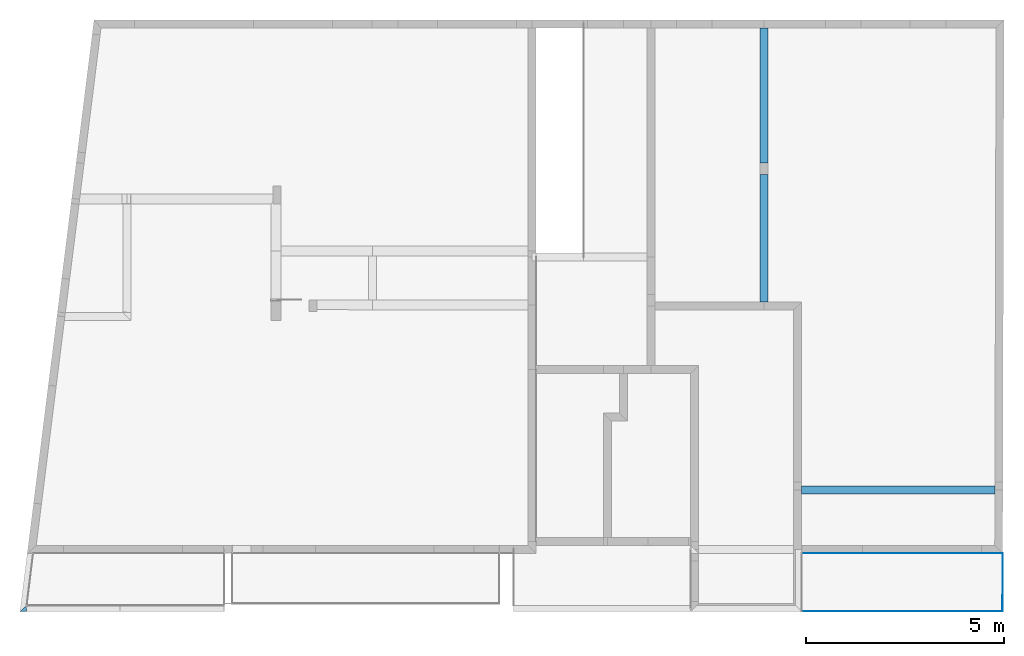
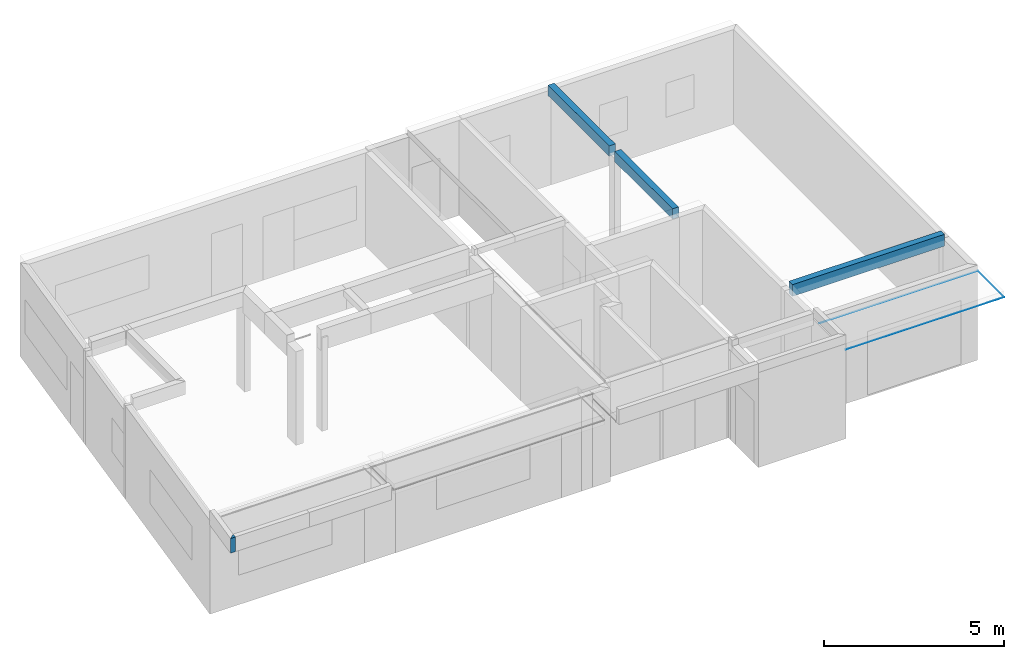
# One storey, part 2 of 17: 7 beams.
"""IFC2X3 building model written with IfcOpenShell, lengths in metres."""

import ifcopenshell
import ifcopenshell.guid

model = None  # the IFC model being written
_history = None  # IfcOwnerHistory: only IFC2X3 demands one
_inside = {}  # id of a spatial element -> (the spatial element, [elements in it])
_under = {}  # id of a project, library or spatial element -> (it, [spatial elements below it])
_declared = {}  # id of a project -> (the project, [libraries it declares])
_typed = {}  # id of a type object -> (the type object, [elements of that type])
_made_of = {}  # id of a material, layer set ... -> (it, [elements and type objects made of it])


def new_model(schema):
    """Start an empty IFC model of exactly this schema.

    Asked for "IFC4X3", IfcOpenShell would pick the latest addendum, in which some entities
    have other attributes; the version numbers below select the first issue.
    IFC2X3 requires an IfcOwnerHistory on every rooted entity: one is made here for all.
    """
    global model, _history
    if schema == "IFC4X3":
        model = ifcopenshell.file(schema_version=(4, 3, 0, 0))
    else:
        model = ifcopenshell.file(schema=schema)
    _inside.clear()
    _under.clear()
    _declared.clear()
    _typed.clear()
    _made_of.clear()
    _history = None
    if model.schema == "IFC2X3":
        org = make("IfcOrganization", Name="unknown")
        user = make(
            "IfcPersonAndOrganization",
            ThePerson=make("IfcPerson", FamilyName="unknown"),
            TheOrganization=org,
        )
        app = make(
            "IfcApplication",
            ApplicationDeveloper=org,
            Version="unknown",
            ApplicationFullName="unknown",
            ApplicationIdentifier="unknown",
        )
        _history = make(
            "IfcOwnerHistory",
            OwningUser=user,
            OwningApplication=app,
            ChangeAction="ADDED",
            CreationDate=0,
        )
    return model


def make(cls, **values):
    """One entity of the class cls with the attributes given. An attribute that is None is left unset."""
    return model.create_entity(
        cls, **{name: value for name, value in values.items() if value is not None}
    )


def rooted(cls, **values):
    """An entity with a GlobalId (a new one), such as an element, a storey or a relation."""
    return make(cls, GlobalId=ifcopenshell.guid.new(), OwnerHistory=_history, **values)


def si_unit(unit_type, name, prefix=None):
    """IfcSIUnit, for example si_unit("LENGTHUNIT", "METRE", prefix="MILLI")."""
    return make("IfcSIUnit", UnitType=unit_type, Prefix=prefix, Name=name)


def assignment(units):
    """IfcUnitAssignment: the units of a project."""
    return None if units is None else make("IfcUnitAssignment", Units=units)


def point(xyz):
    """IfcCartesianPoint."""
    return None if xyz is None else make("IfcCartesianPoint", Coordinates=xyz)


def direction(xyz):
    """IfcDirection."""
    return None if xyz is None else make("IfcDirection", DirectionRatios=xyz)


def frame(location, z_axis=None, x_axis=None):
    """IfcAxis2Placement3D, a coordinate frame: its origin and axes. An axis left out is left unset."""
    return make(
        "IfcAxis2Placement3D",
        Location=point(location),
        Axis=direction(z_axis),
        RefDirection=direction(x_axis),
    )


def origin_with_axes():
    """The frame at (0, 0, 0) with the z axis (0, 0, 1) and the x axis (1, 0, 0) written out."""
    return frame((0.0, 0.0, 0.0), z_axis=(0.0, 0.0, 1.0), x_axis=(1.0, 0.0, 0.0))


def place(relative_to, where):
    """IfcLocalPlacement: puts the frame where relative to a parent placement (None: the world)."""
    return make(
        "IfcLocalPlacement", PlacementRelTo=relative_to, RelativePlacement=where
    )


def context(
    kind, dimensions, precision=None, world=None, true_north=None, identifier=None
):
    """IfcGeometricRepresentationContext, for example the 3D "Model" context."""
    return make(
        "IfcGeometricRepresentationContext",
        ContextIdentifier=identifier,
        ContextType=kind,
        CoordinateSpaceDimension=dimensions,
        Precision=precision,
        WorldCoordinateSystem=world,
        TrueNorth=true_north,
    )


def subcontext(parent, identifier, kind, view, scale=None):
    """IfcGeometricRepresentationSubContext, for example "Body" below "Model"."""
    return make(
        "IfcGeometricRepresentationSubContext",
        ContextIdentifier=identifier,
        ContextType=kind,
        ParentContext=parent,
        TargetScale=scale,
        TargetView=view,
    )


def project(units=None, contexts=None):
    """IfcProject with its units and contexts."""
    return rooted(
        "IfcProject",
        Name="project",
        RepresentationContexts=contexts,
        UnitsInContext=assignment(units),
    )


def spatial(cls, under=None, at=None, **own):
    """A site, building, storey or space (cls), placed at a placement, below another one or the project."""
    s = rooted(cls, ObjectPlacement=at, **own)
    if under is not None:
        _under.setdefault(under.id(), (under, []))[1].append(s)
    return s


def polyline(points):
    """IfcPolyline through the points."""
    return make("IfcPolyline", Points=[point(p) for p in points])


def outline(outer, holes=None, kind="AREA"):
    """IfcArbitraryClosedProfileDef: a profile drawn as a closed curve; with holes, ...WithVoids."""
    if holes is None:
        return make("IfcArbitraryClosedProfileDef", ProfileType=kind, OuterCurve=outer)
    return make(
        "IfcArbitraryProfileDefWithVoids",
        ProfileType=kind,
        OuterCurve=outer,
        InnerCurves=holes,
    )


def extrude(swept, where, along, depth):
    """IfcExtrudedAreaSolid: the profile swept, set in the frame where, extruded along a direction by depth."""
    return make(
        "IfcExtrudedAreaSolid",
        SweptArea=swept,
        Position=where,
        ExtrudedDirection=direction(along),
        Depth=depth,
    )


def shape(context_of_items, identifier, shape_type, items):
    """IfcShapeRepresentation: the items that make up one representation, for example the "Body"."""
    return make(
        "IfcShapeRepresentation",
        ContextOfItems=context_of_items,
        RepresentationIdentifier=identifier,
        RepresentationType=shape_type,
        Items=items,
    )


def material(Name=None, Category=None):
    """IfcMaterial."""
    return make("IfcMaterial", Name=Name, Category=Category)


def made_of(thing, what):
    """Note that an element or type object is made of a material, layer set ...; save() writes the relation."""
    if what is not None:
        _made_of.setdefault(what.id(), (what, []))[1].append(thing)
    return thing


def type_object(cls, material=None, **own):
    """A type object (cls), such as IfcWallType, which elements share."""
    return made_of(rooted(cls, **own), material)


def element(
    cls,
    number,
    at=None,
    inside=None,
    cuts=None,
    type_object=None,
    material=None,
    context=None,
    identifier="Body",
    shape_type=None,
    held_by="IfcProductDefinitionShape",
    body=None,
    shapes=None,
    **own,
):
    """One element of the class cls, such as IfcWall. Its Tag is "e" and its number.

    at: its placement. inside: the storey or other place that contains it. cuts: it is an
    opening in that element (IfcRelVoidsElement). A single representation is given by context,
    identifier, shape_type and body (its items); several are given by shapes. held_by: the class
    of the entity that holds the representations. save() writes the other relations.
    """
    e = rooted(cls, Tag="e%d" % number, ObjectPlacement=at, **own)
    if body is not None:
        shapes = [shape(context, identifier, shape_type, body)]
    if shapes is not None:
        e.Representation = make(held_by, Representations=shapes)
    if inside is not None:
        _inside.setdefault(inside.id(), (inside, []))[1].append(e)
    if cuts is not None:
        rooted(
            "IfcRelVoidsElement", RelatingBuildingElement=cuts, RelatedOpeningElement=e
        )
    if type_object is not None:
        _typed.setdefault(type_object.id(), (type_object, []))[1].append(e)
    return made_of(e, material)


def aggregate(whole, parts):
    """IfcRelAggregates: a whole, such as a stair, and the parts it consists of."""
    return rooted("IfcRelAggregates", RelatingObject=whole, RelatedObjects=parts)


def save(model, path):
    """Write the relations noted so far, then the file.

    IfcRelAggregates (storeys below a building ...), IfcRelContainedInSpatialStructure (elements
    in a storey), IfcRelDefinesByType, IfcRelAssociatesMaterial and IfcRelDeclares: one each for
    every whole, place, type object, material and project.
    """
    for whole, parts in _under.values():
        aggregate(whole, parts)
    for where, things in _inside.values():
        rooted(
            "IfcRelContainedInSpatialStructure",
            RelatedElements=things,
            RelatingStructure=where,
        )
    for kind, things in _typed.values():
        rooted("IfcRelDefinesByType", RelatedObjects=things, RelatingType=kind)
    for what, things in _made_of.values():
        rooted("IfcRelAssociatesMaterial", RelatedObjects=things, RelatingMaterial=what)
    for by, libraries in _declared.values():
        rooted("IfcRelDeclares", RelatingContext=by, RelatedDefinitions=libraries)
    model.write(path)


model = new_model("IFC2X3")

# Units and contexts
model_context = context("Model", 3, precision=0.0001, world=origin_with_axes(), true_north=direction((0.0, 1.0)))
plan_context = context("Plan", 2, precision=0.0001, world=origin_with_axes(), true_north=direction((0.0, 1.0)))
body_context = subcontext(model_context, "Body", "Model", "MODEL_VIEW")
ifc_project = project(units=[si_unit("MASSUNIT", "GRAM", prefix="KILO"), si_unit("AREAUNIT", "SQUARE_METRE"), si_unit("LENGTHUNIT", "METRE"), si_unit("VOLUMEUNIT", "CUBIC_METRE")], contexts=[plan_context, model_context])

# Site, building, storey
site_placement = place(None, origin_with_axes())
site = spatial("IfcSite", under=ifc_project, at=site_placement, Name="$", CompositionType="ELEMENT")
building_placement = place(site_placement, origin_with_axes())
building = spatial("IfcBuilding", under=site, at=building_placement, Name="Classeur ENS Ensemble", CompositionType="ELEMENT")
storey_placement = place(building_placement, frame((-20.30778888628, -1.812671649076, 0.0), z_axis=(0.0, 0.0, 1.0), x_axis=(1.0, 0.0, 0.0)))
storey = spatial("IfcBuildingStorey", under=building, at=storey_placement, Name="001 RdC", CompositionType="ELEMENT", Elevation=0.0)

# Beams
ifc_material = material(Name="Default material")
beam_type = type_object("IfcBeamType", PredefinedType="BEAM")
beam_1_placement = place(storey_placement, frame((38.08329531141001, -10.06773184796, 2.900000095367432), z_axis=(0.0, 0.0, 1.0), x_axis=(1.0, 0.0, 0.0)))
element("IfcBeam", 1, at=beam_1_placement, inside=storey, type_object=beam_type, material=ifc_material, Name="poutre BA", context=body_context, shape_type="SweptSolid", held_by="IfcProductRepresentation", body=[
    extrude(outline(polyline([(0.1000000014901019, 0.1000000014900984), (0.1000000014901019, 0.1000000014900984), (0.1000000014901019, 0.1000000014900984), (4.975803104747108, 0.1000000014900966), (4.975803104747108, 0.1000000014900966), (4.975803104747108, 0.1000000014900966), (4.97529421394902, -0.1000000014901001), (4.97529421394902, -0.1000000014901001), (4.97529421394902, -0.1000000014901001), (0.1000000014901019, -0.1000000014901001), (0.1000000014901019, -0.1000000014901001), (0.1000000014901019, -0.1000000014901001), (0.1000000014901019, 0.1000000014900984)])), origin_with_axes(), (0.0, 0.0, 1.0), 0.4000000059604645),
])
beam_2_placement = place(storey_placement, frame((37.23329531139, -5.427328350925, 2.950000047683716), z_axis=(0.0, 0.0, 1.0), x_axis=(3.015787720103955e-12, 1.0, 0.0)))
element("IfcBeam", 2, at=beam_2_placement, inside=storey, type_object=beam_type, material=ifc_material, Name="poutre BA", context=body_context, shape_type="SweptSolid", held_by="IfcProductRepresentation", body=[
    extrude(outline(polyline([(0.1000000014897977, 0.1000000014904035), (0.1000000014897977, 0.1000000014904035), (0.1000000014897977, 0.1000000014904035), (3.315, 0.1000000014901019), (3.315, 0.1000000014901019), (3.315, 0.1000000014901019), (3.315, -0.1000000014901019), (3.315, -0.1000000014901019), (3.315, -0.1000000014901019), (0.1000000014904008, -0.1000000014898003), (0.1000000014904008, -0.1000000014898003), (0.1000000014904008, -0.1000000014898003), (0.1000000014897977, 0.1000000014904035)])), origin_with_axes(), (0.0, 0.0, 1.0), 0.3499999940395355),
])
beam_3_placement = place(storey_placement, frame((37.2332953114, -1.812328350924, 2.950000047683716), z_axis=(0.0, 0.0, 1.0), x_axis=(0.0, 1.0, 0.0)))
element("IfcBeam", 3, at=beam_3_placement, inside=storey, type_object=beam_type, material=ifc_material, Name="poutre BA", context=body_context, shape_type="SweptSolid", held_by="IfcProductRepresentation", body=[
    extrude(outline(polyline([(0.0, 0.1000000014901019), (0.0, 0.1000000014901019), (0.0, 0.1000000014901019), (3.4049999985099, 0.1000000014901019), (3.4049999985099, 0.1000000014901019), (3.4049999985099, 0.1000000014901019), (3.4049999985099, -0.1000000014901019), (3.4049999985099, -0.1000000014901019), (3.4049999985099, -0.1000000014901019), (0.0, -0.1000000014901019), (0.0, -0.1000000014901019), (0.0, -0.1000000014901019), (0.0, 0.1000000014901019)])), origin_with_axes(), (0.0, 0.0, 1.0), 0.3499999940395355),
])
beam_4_placement = place(storey_placement, frame((43.25104689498, -13.13232835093, 2.900000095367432), z_axis=(0.0, 0.0, 1.0), x_axis=(0.002544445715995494, 0.9999967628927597, 0.0)))
element("IfcBeam", 4, at=beam_4_placement, inside=storey, type_object=beam_type, material=ifc_material, Name="poutre fictive", context=body_context, shape_type="SweptSolid", held_by="IfcProductRepresentation", body=[
    extrude(outline(polyline([(-2.31435108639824e-15, 0.001000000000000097), (-2.31435108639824e-15, 0.001000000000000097), (-2.31435108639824e-15, 0.001000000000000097), (1.465202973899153, 0.000999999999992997), (1.465202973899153, 0.000999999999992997), (1.465202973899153, 0.000999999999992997), (1.465202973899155, -0.001000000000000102), (1.465202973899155, -0.001000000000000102), (1.465202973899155, -0.001000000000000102), (5.199202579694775e-16, -0.0009999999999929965), (5.199202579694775e-16, -0.0009999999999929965), (5.199202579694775e-16, -0.0009999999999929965), (-2.31435108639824e-15, 0.001000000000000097)])), origin_with_axes(), (0.0, 0.0, 1.0), 0.001),
])
beam_5_placement = place(storey_placement, frame((38.18329531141, -13.13232835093, 2.900000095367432), z_axis=(0.0, 0.0, 1.0), x_axis=(0.9999999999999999, 0.0, 0.0)))
element("IfcBeam", 5, at=beam_5_placement, inside=storey, type_object=beam_type, material=ifc_material, Name="poutre fictive", context=body_context, shape_type="SweptSolid", held_by="IfcProductRepresentation", body=[
    extrude(outline(polyline([(0.0, 0.000999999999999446), (0.0, 0.000999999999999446), (0.0, 0.000999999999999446), (5.067751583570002, 0.000999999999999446), (5.067751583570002, 0.000999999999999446), (5.067751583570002, 0.000999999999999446), (5.067751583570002, -0.001000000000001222), (5.067751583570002, -0.001000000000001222), (5.067751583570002, -0.001000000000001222), (0.0, -0.001000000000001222), (0.0, -0.001000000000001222), (0.0, -0.001000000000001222), (0.0, 0.000999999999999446)])), origin_with_axes(), (0.0, 0.0, 1.0), 0.001),
])
beam_6_placement = place(storey_placement, frame((38.18329531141, -11.66732835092, 2.900000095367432), z_axis=(0.0, 0.0, 1.0), x_axis=(0.9999999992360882, 3.908738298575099e-05, 0.0)))
element("IfcBeam", 6, at=beam_6_placement, inside=storey, type_object=beam_type, material=ifc_material, Name="poutre fictive", context=body_context, shape_type="SweptSolid", held_by="IfcProductRepresentation", body=[
    extrude(outline(polyline([(7.65927822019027e-16, 0.000999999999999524), (7.65927822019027e-16, 0.000999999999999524), (7.65927822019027e-16, 0.000999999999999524), (5.071479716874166, 0.000999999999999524), (5.071479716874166, 0.000999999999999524), (5.071479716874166, 0.000999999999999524), (5.071479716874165, -0.000999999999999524), (5.071479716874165, -0.000999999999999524), (5.071479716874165, -0.000999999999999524), (-7.659972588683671e-16, -0.0010000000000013), (-7.659972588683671e-16, -0.0010000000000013), (-7.659972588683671e-16, -0.0010000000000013), (7.65927822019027e-16, 0.000999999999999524)])), origin_with_axes(), (0.0, 0.0, 1.0), 0.001),
])
beam_7_placement = place(storey_placement, frame((18.54244853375, -13.05732835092, 2.900000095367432), z_axis=(0.0, 0.0, 1.0), x_axis=(1.0, 0.0, 0.0)))
element("IfcBeam", 7, at=beam_7_placement, inside=storey, type_object=beam_type, material=ifc_material, Name="poutre BA rive balcon", context=body_context, shape_type="SweptSolid", held_by="IfcProductRepresentation", body=[
    extrude(outline(polyline([(0.08497188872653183, 0.07500000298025), (0.08497188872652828, 0.07500000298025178), (0.08497188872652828, 0.07500000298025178), (0.07558512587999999, 0.07500000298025), (0.07558512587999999, 0.07500000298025), (0.07558512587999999, 0.07500000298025), (0.07558512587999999, -0.07500000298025), (0.07558512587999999, -0.07500000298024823), (0.07558512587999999, -0.07500000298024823), (-0.08497188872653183, -0.07500000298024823), (-0.08497188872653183, -0.07500000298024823), (-0.08497188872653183, -0.07500000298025), (0.08497188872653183, 0.07500000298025)])), origin_with_axes(), (0.0, 0.0, 1.0), 0.5),
])

save(model, "model.ifc")
